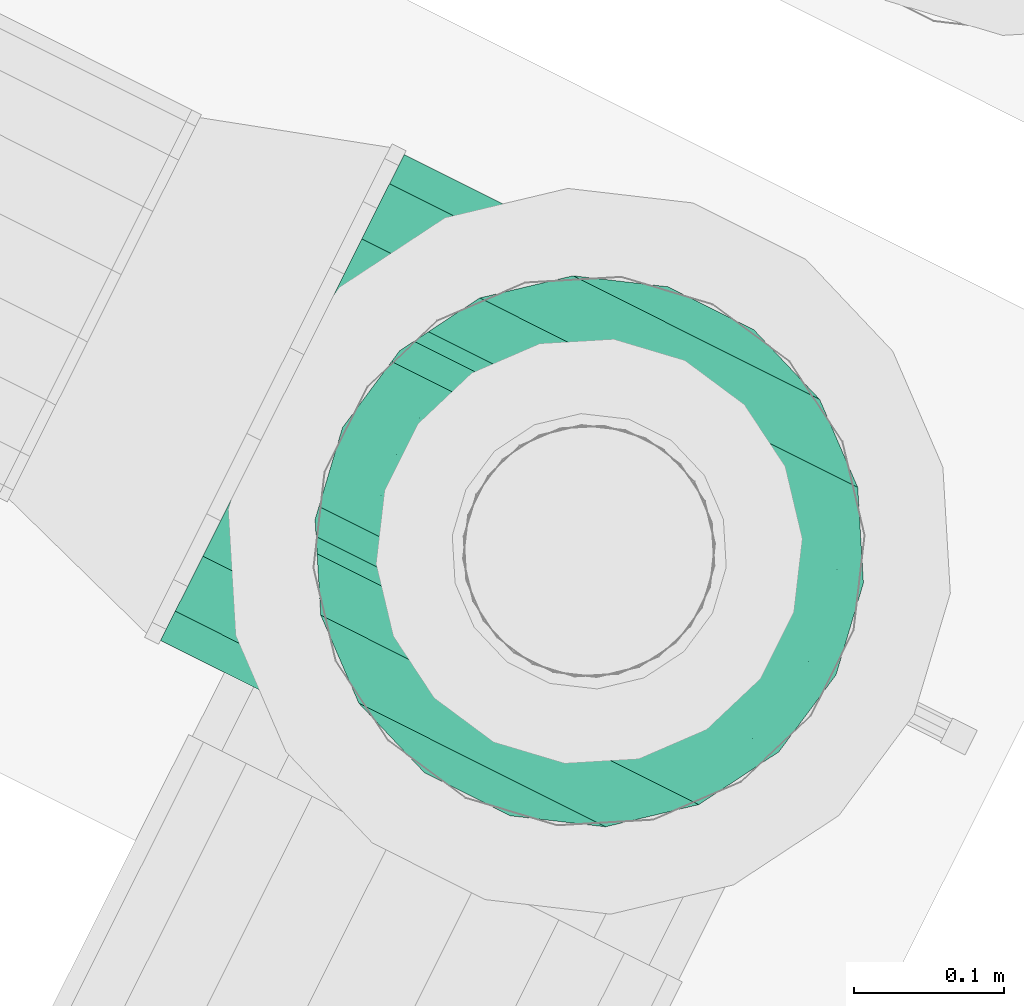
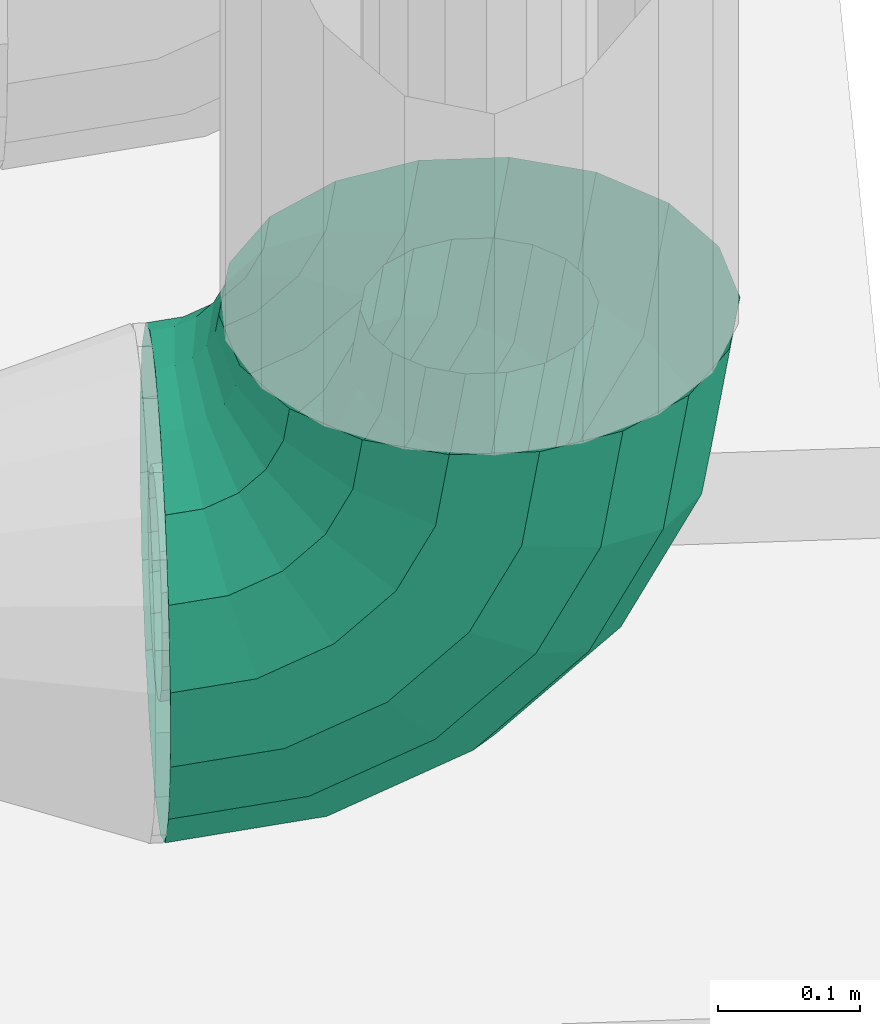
# One storey, part 135 of 152: 1 flow segment.
"""IFC2X3 building model written with IfcOpenShell, lengths in metres."""

from ifc_helpers import new_model, si_unit, derived_unit, direction, frame, origin, place, context, subcontext, project, spatial, face_set, surface_model, source, transform, mapped, material, type_object, type_shapes, element, save


model = new_model("IFC2X3")

# Units and contexts
model_context = context("Model", 3, precision=5.2338327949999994e-05, world=origin(), true_north=direction((0.0, 1.0)))
body_context = subcontext(model_context, "Body", "Model", "MODEL_VIEW")
ifc_project = project(units=[si_unit("LENGTHUNIT", "METRE"), si_unit("AREAUNIT", "SQUARE_METRE"), si_unit("VOLUMEUNIT", "CUBIC_METRE"), si_unit("MASSUNIT", "GRAM", prefix="KILO"), si_unit("PLANEANGLEUNIT", "RADIAN"), derived_unit("THERMALTRANSMITTANCEUNIT", [(si_unit("MASSUNIT", "GRAM", prefix="KILO"), 1), (si_unit("THERMODYNAMICTEMPERATUREUNIT", "KELVIN"), -1), (si_unit("TIMEUNIT", "SECOND"), -3)])], contexts=[model_context])

# Site, building, storey
site_placement = place(None, frame((0.0, 0.0, 0.0), z_axis=(0.0, 0.0, 1.0), x_axis=(0.8939966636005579, -0.4480736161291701, 0.0)))
site = spatial("IfcSite", under=ifc_project, at=site_placement, Name="Default", CompositionType="ELEMENT")
building_placement = place(site_placement, origin())
building = spatial("IfcBuilding", under=site, at=building_placement, CompositionType="ELEMENT")
storey_placement = place(building_placement, frame((0.0, 0.0, 2.7499999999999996)))
storey = spatial("IfcBuildingStorey", under=building, at=storey_placement, Name="1. Obergeschoss", CompositionType="ELEMENT", Elevation=2.7499999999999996)

# Flow segment
ifc_material = material(Name="IfcSurfaceStyle #9317")
distribution_element_type = type_object("IfcDistributionElementType", Name="Rohrbogen 221563:Rohrbogen 221563", material=ifc_material)
shared_shape = source(origin(), body_context, "Body", "SurfaceModel", [
    surface_model("IfcFaceBasedSurfaceModel", [(11.809964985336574, 7.3272083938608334, 3.5541547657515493), (11.804890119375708, 7.298427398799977, 3.5541547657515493), (11.789811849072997, 7.2984273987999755, 3.4589543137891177), (11.794638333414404, 7.3272083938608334, 3.4573860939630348), (11.746053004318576, 7.298427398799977, 3.3730727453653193), (11.75015865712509, 7.3272083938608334, 3.3700898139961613), (11.677897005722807, 7.298427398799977, 3.3049167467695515), (11.680879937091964, 7.327208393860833, 3.300811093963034), (11.59201543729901, 7.298427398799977, 3.2611579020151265), (11.59358365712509, 7.327208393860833, 3.2563314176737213), (11.496814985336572, 7.298427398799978, 3.246079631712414), (11.496814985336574, 7.3272083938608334, 3.2410047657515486), (11.790277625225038, 7.273117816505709, 3.5541547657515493), (11.775914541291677, 7.273117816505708, 3.46346982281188), (11.734231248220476, 7.27311781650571, 3.381661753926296), (11.669307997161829, 7.273117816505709, 3.3167385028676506), (11.587499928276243, 7.273117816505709, 3.27505520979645), (11.496814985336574, 7.273117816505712, 3.260692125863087), (11.767889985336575, 7.254332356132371, 3.5541547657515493), (11.754622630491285, 7.254332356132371, 3.470387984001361), (11.716119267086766, 7.254332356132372, 3.394820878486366), (11.656148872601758, 7.254332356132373, 3.33485048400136), (11.580581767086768, 7.254332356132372, 3.296347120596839), (11.496814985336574, 7.254332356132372, 3.283079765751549), (11.740427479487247, 7.244336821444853, 3.5541547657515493), (11.728504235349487, 7.244336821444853, 3.4788743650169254), (11.693901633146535, 7.244336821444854, 3.4109629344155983), (11.640006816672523, 7.244336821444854, 3.3570681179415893), (11.5720953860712, 7.244336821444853, 3.322465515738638), (11.496814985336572, 7.244336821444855, 3.3105422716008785), (11.711202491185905, 7.244336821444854, 3.5541547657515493), (11.700709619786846, 7.244336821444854, 3.4879053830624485), (11.67025812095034, 7.244336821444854, 3.4281409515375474), (11.622828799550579, 7.244336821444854, 3.3807116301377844), (11.563064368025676, 7.244336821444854, 3.3502601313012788), (11.496814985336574, 7.244336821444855, 3.33976725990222), (11.683739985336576, 7.254332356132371, 3.5541547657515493), (11.674591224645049, 7.25433235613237, 3.496391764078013), (11.648040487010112, 7.25433235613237, 3.4442830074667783), (11.606686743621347, 7.254332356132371, 3.4029292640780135), (11.554577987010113, 7.25433235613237, 3.376378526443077), (11.496814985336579, 7.254332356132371, 3.367229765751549), (11.661352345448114, 7.27311781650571, 3.5541547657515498), (11.65329931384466, 7.273117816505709, 3.503309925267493), (11.6299285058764, 7.27311781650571, 3.4574421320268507), (11.593527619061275, 7.273117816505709, 3.421041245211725), (11.54765982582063, 7.273117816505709, 3.397670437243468), (11.496814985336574, 7.27311781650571, 3.389617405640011), (11.646739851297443, 7.298427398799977, 3.5541547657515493), (11.639402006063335, 7.2984273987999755, 3.507825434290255), (11.618106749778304, 7.2984273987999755, 3.4660311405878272), (11.584938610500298, 7.298427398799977, 3.4328630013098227), (11.543144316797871, 7.2984273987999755, 3.41156774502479), (11.496814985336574, 7.298427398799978, 3.404229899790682), (11.641664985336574, 7.3272083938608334, 3.5541547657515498), (11.634575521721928, 7.327208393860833, 3.5093936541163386), (11.614001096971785, 7.3272083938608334, 3.4690140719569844), (11.58195567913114, 7.327208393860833, 3.436968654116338), (11.541576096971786, 7.327208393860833, 3.4163942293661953), (11.496814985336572, 7.3272083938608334, 3.40930476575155), (11.646739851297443, 7.355989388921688, 3.554154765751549), (11.639402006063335, 7.355989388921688, 3.5078254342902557), (11.618106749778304, 7.355989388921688, 3.4660311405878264), (11.584938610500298, 7.355989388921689, 3.4328630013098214), (11.543144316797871, 7.355989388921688, 3.4115677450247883), (11.496814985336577, 7.355989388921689, 3.404229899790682), (11.661352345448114, 7.381298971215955, 3.5541547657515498), (11.653299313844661, 7.381298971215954, 3.5033099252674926), (11.629928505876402, 7.381298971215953, 3.4574421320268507), (11.593527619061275, 7.381298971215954, 3.4210412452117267), (11.54765982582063, 7.381298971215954, 3.3976704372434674), (11.496814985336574, 7.381298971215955, 3.389617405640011), (11.683739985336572, 7.400084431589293, 3.5541547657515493), (11.674591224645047, 7.400084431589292, 3.496391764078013), (11.64804048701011, 7.400084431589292, 3.4442830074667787), (11.606686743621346, 7.400084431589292, 3.4029292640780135), (11.554577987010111, 7.400084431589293, 3.376378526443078), (11.496814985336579, 7.400084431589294, 3.3672297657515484), (11.711202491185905, 7.410079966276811, 3.5541547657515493), (11.700709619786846, 7.410079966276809, 3.4879053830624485), (11.67025812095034, 7.410079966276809, 3.4281409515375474), (11.62282879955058, 7.410079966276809, 3.3807116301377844), (11.563064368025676, 7.410079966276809, 3.3502601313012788), (11.496814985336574, 7.410079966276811, 3.33976725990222), (11.740427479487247, 7.410079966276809, 3.5541547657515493), (11.728504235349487, 7.410079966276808, 3.4788743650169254), (11.693901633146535, 7.410079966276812, 3.4109629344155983), (11.640006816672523, 7.410079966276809, 3.3570681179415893), (11.5720953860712, 7.410079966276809, 3.3224655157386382), (11.496814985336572, 7.410079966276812, 3.3105422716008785), (11.767889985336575, 7.400084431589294, 3.5541547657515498), (11.754622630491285, 7.400084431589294, 3.470387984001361), (11.716119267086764, 7.400084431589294, 3.394820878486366), (11.656148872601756, 7.400084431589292, 3.33485048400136), (11.580581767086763, 7.400084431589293, 3.2963471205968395), (11.496814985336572, 7.400084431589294, 3.2830797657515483), (11.790277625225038, 7.381298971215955, 3.5541547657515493), (11.775914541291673, 7.381298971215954, 3.4634698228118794), (11.734231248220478, 7.381298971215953, 3.3816617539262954), (11.669307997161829, 7.381298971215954, 3.3167385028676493), (11.587499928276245, 7.381298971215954, 3.2750552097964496), (11.496814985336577, 7.381298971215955, 3.2606921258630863), (11.804890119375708, 7.355989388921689, 3.554154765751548), (11.789811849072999, 7.355989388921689, 3.4589543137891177), (11.746053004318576, 7.355989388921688, 3.3730727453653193), (11.677897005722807, 7.355989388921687, 3.3049167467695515), (11.59201543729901, 7.355989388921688, 3.261157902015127), (11.496814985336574, 7.355989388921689, 3.246079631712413), (11.909964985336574, 7.3272083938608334, 3.5541547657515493), (11.898859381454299, 7.264225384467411, 3.5541547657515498), (11.879181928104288, 7.264225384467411, 3.4299162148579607), (11.889743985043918, 7.3272083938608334, 3.4264843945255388), (11.822075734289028, 7.26422538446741, 3.3178389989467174), (11.831060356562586, 7.327208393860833, 3.3113112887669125), (11.733130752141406, 7.26422538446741, 3.2288940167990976), (11.739658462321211, 7.327208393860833, 3.2199093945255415), (11.621053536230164, 7.26422538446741, 3.1717878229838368), (11.624485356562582, 7.327208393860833, 3.161225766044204), (11.496814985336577, 7.264225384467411, 3.152110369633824), (11.496814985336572, 7.3272083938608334, 3.141004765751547), (11.866882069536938, 7.208839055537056, 3.5541547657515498), (11.848769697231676, 7.208839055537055, 3.439797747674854), (11.796205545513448, 7.208839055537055, 3.3366347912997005), (11.71433495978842, 7.208839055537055, 3.2547642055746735), (11.611172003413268, 7.208839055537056, 3.20220005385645), (11.496814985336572, 7.208839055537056, 3.1840876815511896), (11.817889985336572, 7.167729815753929, 3.5541547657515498), (11.80217545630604, 7.167729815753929, 3.454937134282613), (11.756570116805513, 7.167729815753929, 3.365431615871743), (11.685538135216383, 7.167729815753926, 3.2943996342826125), (11.59603261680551, 7.167729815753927, 3.2487942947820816), (11.496814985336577, 7.167729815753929, 3.233079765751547), (11.757792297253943, 7.145856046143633, 3.5541547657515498), (11.74501915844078, 7.145856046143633, 3.473508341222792), (11.707950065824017, 7.145856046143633, 3.4007561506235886), (11.650213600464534, 7.145856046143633, 3.3430196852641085), (11.57746140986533, 7.145856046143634, 3.3059505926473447), (11.496814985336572, 7.145856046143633, 3.293177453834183), (11.693837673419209, 7.145856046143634, 3.5541547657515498), (11.68419469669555, 7.145856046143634, 3.493271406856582), (11.656209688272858, 7.145856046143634, 3.4383477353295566), (11.612622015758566, 7.145856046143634, 3.394760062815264), (11.557698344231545, 7.145856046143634, 3.3667750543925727), (11.496814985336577, 7.145856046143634, 3.3571320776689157), (11.633739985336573, 7.167729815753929, 3.5541547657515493), (11.627038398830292, 7.167729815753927, 3.51184261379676), (11.607589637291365, 7.167729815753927, 3.473672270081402), (11.577297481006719, 7.167729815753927, 3.44338011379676), (11.539127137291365, 7.167729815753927, 3.423931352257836), (11.496814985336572, 7.167729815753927, 3.4172297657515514), (11.584747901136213, 7.208839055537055, 3.5541547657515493), (11.580444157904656, 7.208839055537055, 3.5269820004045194), (11.567954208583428, 7.208839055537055, 3.502469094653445), (11.548500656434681, 7.208839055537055, 3.4830155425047), (11.523987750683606, 7.208839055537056, 3.470525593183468), (11.496814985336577, 7.208839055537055, 3.4662218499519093), (11.552770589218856, 7.264225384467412, 3.5541547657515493), (11.550031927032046, 7.264225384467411, 3.536863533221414), (11.542084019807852, 7.26422538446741, 3.5212648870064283), (11.5297048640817, 7.264225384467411, 3.5088857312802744), (11.514106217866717, 7.26422538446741, 3.5009378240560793), (11.496814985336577, 7.264225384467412, 3.498199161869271), (11.541664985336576, 7.327208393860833, 3.5541547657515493), (11.53946987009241, 7.3272083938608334, 3.5402953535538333), (11.53309939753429, 7.3272083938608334, 3.5277925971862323), (11.523177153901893, 7.327208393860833, 3.5178703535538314), (11.510674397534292, 7.327208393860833, 3.5114998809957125), (11.496814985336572, 7.3272083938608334, 3.509304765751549), (11.552770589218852, 7.390191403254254, 3.5541547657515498), (11.550031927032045, 7.390191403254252, 3.536863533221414), (11.542084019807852, 7.390191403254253, 3.5212648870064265), (11.529704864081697, 7.390191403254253, 3.5088857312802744), (11.514106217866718, 7.390191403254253, 3.50093782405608), (11.496814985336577, 7.390191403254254, 3.498199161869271), (11.584747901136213, 7.445577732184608, 3.5541547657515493), (11.580444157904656, 7.445577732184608, 3.5269820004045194), (11.567954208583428, 7.445577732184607, 3.502469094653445), (11.54850065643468, 7.445577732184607, 3.4830155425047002), (11.523987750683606, 7.445577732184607, 3.470525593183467), (11.496814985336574, 7.445577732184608, 3.4662218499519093), (11.633739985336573, 7.486686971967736, 3.5541547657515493), (11.627038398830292, 7.486686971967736, 3.5118426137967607), (11.607589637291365, 7.486686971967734, 3.473672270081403), (11.57729748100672, 7.486686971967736, 3.443380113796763), (11.539127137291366, 7.486686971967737, 3.423931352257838), (11.496814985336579, 7.486686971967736, 3.4172297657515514), (11.693837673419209, 7.508560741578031, 3.5541547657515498), (11.684194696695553, 7.508560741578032, 3.4932714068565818), (11.65620968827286, 7.508560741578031, 3.438347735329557), (11.612622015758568, 7.508560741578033, 3.3947600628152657), (11.557698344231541, 7.508560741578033, 3.3667750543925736), (11.496814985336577, 7.508560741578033, 3.3571320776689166), (11.757792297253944, 7.508560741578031, 3.5541547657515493), (11.745019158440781, 7.508560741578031, 3.473508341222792), (11.707950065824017, 7.508560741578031, 3.400756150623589), (11.650213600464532, 7.508560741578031, 3.3430196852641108), (11.57746140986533, 7.508560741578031, 3.305950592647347), (11.496814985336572, 7.508560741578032, 3.293177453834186), (11.817889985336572, 7.486686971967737, 3.5541547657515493), (11.802175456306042, 7.486686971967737, 3.4549371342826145), (11.756570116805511, 7.486686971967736, 3.365431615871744), (11.685538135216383, 7.486686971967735, 3.2943996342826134), (11.59603261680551, 7.486686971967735, 3.248794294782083), (11.496814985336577, 7.486686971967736, 3.2330797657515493), (11.866882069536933, 7.445577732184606, 3.5541547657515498), (11.848769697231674, 7.445577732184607, 3.439797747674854), (11.796205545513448, 7.445577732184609, 3.3366347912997), (11.71433495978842, 7.445577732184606, 3.2547642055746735), (11.611172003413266, 7.445577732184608, 3.2022000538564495), (11.496814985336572, 7.445577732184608, 3.1840876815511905), (11.8988593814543, 7.390191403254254, 3.5541547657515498), (11.879181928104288, 7.390191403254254, 3.42991621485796), (11.822075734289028, 7.390191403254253, 3.3178389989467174), (11.733130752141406, 7.390191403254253, 3.2288940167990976), (11.621053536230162, 7.390191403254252, 3.1717878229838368), (11.496814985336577, 7.390191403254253, 3.1521103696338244)], [face_set([[[0, 1, 2, 3]], [[3, 2, 4, 5]], [[5, 4, 6, 7]], [[7, 6, 8, 9]], [[9, 8, 10, 11]], [[1, 12, 13, 2]], [[2, 13, 14, 4]], [[4, 14, 15, 6]], [[6, 15, 16, 8]], [[8, 16, 17, 10]], [[12, 18, 19, 13]], [[13, 19, 20, 14]], [[14, 20, 21, 15]], [[15, 21, 22, 16]], [[16, 22, 23, 17]], [[18, 24, 25, 19]], [[19, 25, 26, 20]], [[20, 26, 27, 21]], [[21, 27, 28, 22]], [[22, 28, 29, 23]], [[24, 30, 31, 25]], [[25, 31, 32, 26]], [[26, 32, 33, 27]], [[27, 33, 34, 28]], [[28, 34, 35, 29]], [[30, 36, 37, 31]], [[31, 37, 38, 32]], [[32, 38, 39, 33]], [[33, 39, 40, 34]], [[34, 40, 41, 35]], [[36, 42, 43, 37]], [[37, 43, 44, 38]], [[38, 44, 45, 39]], [[39, 45, 46, 40]], [[40, 46, 47, 41]], [[42, 48, 49, 43]], [[43, 49, 50, 44]], [[44, 50, 51, 45]], [[45, 51, 52, 46]], [[46, 52, 53, 47]], [[48, 54, 55, 49]], [[49, 55, 56, 50]], [[50, 56, 57, 51]], [[51, 57, 58, 52]], [[52, 58, 59, 53]], [[54, 60, 61, 55]], [[55, 61, 62, 56]], [[56, 62, 63, 57]], [[57, 63, 64, 58]], [[58, 64, 65, 59]], [[60, 66, 67, 61]], [[61, 67, 68, 62]], [[62, 68, 69, 63]], [[63, 69, 70, 64]], [[64, 70, 71, 65]], [[66, 72, 73, 67]], [[67, 73, 74, 68]], [[68, 74, 75, 69]], [[69, 75, 76, 70]], [[70, 76, 77, 71]], [[72, 78, 79, 73]], [[73, 79, 80, 74]], [[74, 80, 81, 75]], [[75, 81, 82, 76]], [[76, 82, 83, 77]], [[78, 84, 85, 79]], [[79, 85, 86, 80]], [[80, 86, 87, 81]], [[81, 87, 88, 82]], [[82, 88, 89, 83]], [[84, 90, 91, 85]], [[85, 91, 92, 86]], [[86, 92, 93, 87]], [[87, 93, 94, 88]], [[88, 94, 95, 89]], [[90, 96, 97, 91]], [[91, 97, 98, 92]], [[92, 98, 99, 93]], [[93, 99, 100, 94]], [[94, 100, 101, 95]], [[96, 102, 103, 97]], [[97, 103, 104, 98]], [[98, 104, 105, 99]], [[99, 105, 106, 100]], [[100, 106, 107, 101]], [[102, 0, 3, 103]], [[103, 3, 5, 104]], [[104, 5, 7, 105]], [[105, 7, 9, 106]], [[106, 9, 11, 107]], [[108, 109, 110, 111]], [[111, 110, 112, 113]], [[113, 112, 114, 115]], [[115, 114, 116, 117]], [[117, 116, 118, 119]], [[109, 120, 121, 110]], [[110, 121, 122, 112]], [[112, 122, 123, 114]], [[114, 123, 124, 116]], [[116, 124, 125, 118]], [[120, 126, 127, 121]], [[121, 127, 128, 122]], [[122, 128, 129, 123]], [[123, 129, 130, 124]], [[124, 130, 131, 125]], [[126, 132, 133, 127]], [[127, 133, 134, 128]], [[128, 134, 135, 129]], [[129, 135, 136, 130]], [[130, 136, 137, 131]], [[132, 138, 139, 133]], [[133, 139, 140, 134]], [[134, 140, 141, 135]], [[135, 141, 142, 136]], [[136, 142, 143, 137]], [[138, 144, 145, 139]], [[139, 145, 146, 140]], [[140, 146, 147, 141]], [[141, 147, 148, 142]], [[142, 148, 149, 143]], [[144, 150, 151, 145]], [[145, 151, 152, 146]], [[146, 152, 153, 147]], [[147, 153, 154, 148]], [[148, 154, 155, 149]], [[150, 156, 157, 151]], [[151, 157, 158, 152]], [[152, 158, 159, 153]], [[153, 159, 160, 154]], [[154, 160, 161, 155]], [[156, 162, 163, 157]], [[157, 163, 164, 158]], [[158, 164, 165, 159]], [[159, 165, 166, 160]], [[160, 166, 167, 161]], [[162, 168, 169, 163]], [[163, 169, 170, 164]], [[164, 170, 171, 165]], [[165, 171, 172, 166]], [[166, 172, 173, 167]], [[168, 174, 175, 169]], [[169, 175, 176, 170]], [[170, 176, 177, 171]], [[171, 177, 178, 172]], [[172, 178, 179, 173]], [[174, 180, 181, 175]], [[175, 181, 182, 176]], [[176, 182, 183, 177]], [[177, 183, 184, 178]], [[178, 184, 185, 179]], [[180, 186, 187, 181]], [[181, 187, 188, 182]], [[182, 188, 189, 183]], [[183, 189, 190, 184]], [[184, 190, 191, 185]], [[186, 192, 193, 187]], [[187, 193, 194, 188]], [[188, 194, 195, 189]], [[189, 195, 196, 190]], [[190, 196, 197, 191]], [[192, 198, 199, 193]], [[193, 199, 200, 194]], [[194, 200, 201, 195]], [[195, 201, 202, 196]], [[196, 202, 203, 197]], [[198, 204, 205, 199]], [[199, 205, 206, 200]], [[200, 206, 207, 201]], [[201, 207, 208, 202]], [[202, 208, 209, 203]], [[204, 210, 211, 205]], [[205, 211, 212, 206]], [[206, 212, 213, 207]], [[207, 213, 214, 208]], [[208, 214, 215, 209]], [[210, 108, 111, 211]], [[211, 111, 113, 212]], [[212, 113, 115, 213]], [[213, 115, 117, 214]], [[214, 117, 119, 215]]])]),
])
type_shapes(distribution_element_type, [shared_shape])
flow_segment_placement = place(storey_placement, frame((0.0, 0.0, -2.7499999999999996)))
element("IfcFlowSegment", 1, at=flow_segment_placement, inside=storey, type_object=distribution_element_type, material=ifc_material, Name="Rohrbogen", ObjectType="Rohrbogen", context=body_context, shape_type="MappedRepresentation", body=[
    mapped(shared_shape, transform((0.0, 0.0, 0.0), scale=1.0)),
])

save(model, "model.ifc")
